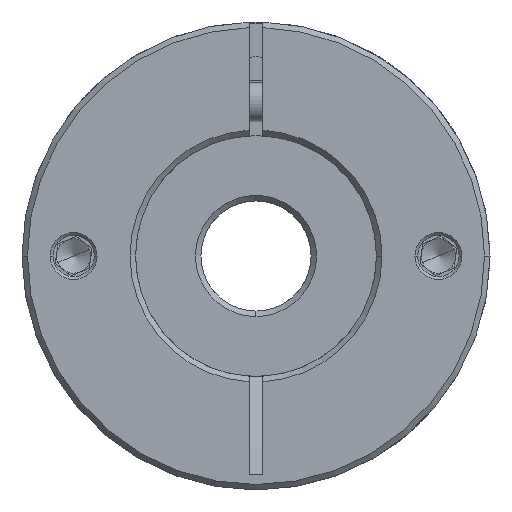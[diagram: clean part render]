
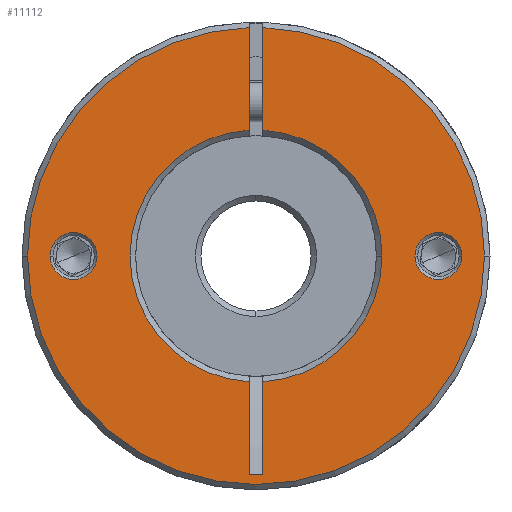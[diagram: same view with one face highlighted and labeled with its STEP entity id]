
A CAD part, front view. The second image highlights one B-rep face of the part: STEP entity #11112.
In plain terms, the highlighted planar face has unit normal (0, -1, 0).
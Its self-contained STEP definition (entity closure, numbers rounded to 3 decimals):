
#56 = CIRCLE ( 'NONE', #3083, 18.3 ) ;
#178 = EDGE_CURVE ( 'NONE', #10034, #9777, #7985, .T. ) ;
#259 = CIRCLE ( 'NONE', #12047, 3.4 ) ;
#278 = CARTESIAN_POINT ( 'NONE',  ( -25.835, -47.045, 68. ) ) ;
#299 = ORIENTED_EDGE ( 'NONE', *, *, #5300, .T. ) ;
#361 = DIRECTION ( 'NONE',  ( 0., 0., -1. ) ) ;
#580 = VERTEX_POINT ( 'NONE', #278 ) ;
#638 = EDGE_CURVE ( 'NONE', #13342, #2035, #6831, .T. ) ;
#647 = VECTOR ( 'NONE', #361, 1000. ) ;
#1026 = DIRECTION ( 'NONE',  ( 0., 1., 0. ) ) ;
#1194 = DIRECTION ( 'NONE',  ( 0., 1., 0. ) ) ;
#1368 = DIRECTION ( 'NONE',  ( 1., 0., 0. ) ) ;
#1606 = CARTESIAN_POINT ( 'NONE',  ( -1.735, -47.045, 86.273 ) ) ;
#1617 = VERTEX_POINT ( 'NONE', #3227 ) ;
#1747 = VECTOR ( 'NONE', #3074, 1000. ) ;
#1832 = CARTESIAN_POINT ( 'NONE',  ( 30.465, -47.045, 68. ) ) ;
#1965 = EDGE_CURVE ( 'NONE', #7394, #3486, #11553, .T. ) ;
#1993 = CARTESIAN_POINT ( 'NONE',  ( -2.735, -47.045, 68. ) ) ;
#2035 = VERTEX_POINT ( 'NONE', #3305 ) ;
#2087 = FACE_BOUND ( 'NONE', #10837, .T. ) ;
#2122 = AXIS2_PLACEMENT_3D ( 'NONE', #5395, #12552, #12683 ) ;
#2307 = VERTEX_POINT ( 'NONE', #3889 ) ;
#2384 = CARTESIAN_POINT ( 'NONE',  ( -3.735, -47.045, 68. ) ) ;
#2489 = AXIS2_PLACEMENT_3D ( 'NONE', #8278, #1026, #6085 ) ;
#2513 = DIRECTION ( 'NONE',  ( 0., 1., 0. ) ) ;
#2552 = CIRCLE ( 'NONE', #2489, 3.4 ) ;
#2935 = CARTESIAN_POINT ( 'NONE',  ( -3.735, -47.045, 49.727 ) ) ;
#3011 = ORIENTED_EDGE ( 'NONE', *, *, #3584, .T. ) ;
#3020 = CARTESIAN_POINT ( 'NONE',  ( -3.735, -47.045, 68. ) ) ;
#3074 = DIRECTION ( 'NONE',  ( 0., 0., -1. ) ) ;
#3083 = AXIS2_PLACEMENT_3D ( 'NONE', #3262, #6721, #11111 ) ;
#3227 = CARTESIAN_POINT ( 'NONE',  ( -3.735, -47.045, 101.185 ) ) ;
#3235 = EDGE_CURVE ( 'NONE', #580, #5173, #4159, .T. ) ;
#3262 = CARTESIAN_POINT ( 'NONE',  ( -2.735, -47.045, 68. ) ) ;
#3305 = CARTESIAN_POINT ( 'NONE',  ( -3.735, -47.045, 36.279 ) ) ;
#3486 = VERTEX_POINT ( 'NONE', #1606 ) ;
#3558 = CARTESIAN_POINT ( 'NONE',  ( -32.635, -47.045, 68. ) ) ;
#3580 = DIRECTION ( 'NONE',  ( 0., 0., -1. ) ) ;
#3584 = EDGE_CURVE ( 'NONE', #5173, #580, #259, .T. ) ;
#3728 = CARTESIAN_POINT ( 'NONE',  ( 15.565, -47.045, 68. ) ) ;
#3889 = CARTESIAN_POINT ( 'NONE',  ( -3.735, -47.045, 86.273 ) ) ;
#4000 = EDGE_LOOP ( 'NONE', ( #4307, #4030, #9543, #12312, #8546, #7762, #299, #8768, #6674, #13279, #8054 ) ) ;
#4024 = AXIS2_PLACEMENT_3D ( 'NONE', #1993, #10344, #4090 ) ;
#4030 = ORIENTED_EDGE ( 'NONE', *, *, #12422, .T. ) ;
#4090 = DIRECTION ( 'NONE',  ( 1., 0., 0. ) ) ;
#4153 = CARTESIAN_POINT ( 'NONE',  ( -35.935, -47.045, 68. ) ) ;
#4159 = CIRCLE ( 'NONE', #12216, 3.4 ) ;
#4307 = ORIENTED_EDGE ( 'NONE', *, *, #5374, .F. ) ;
#4717 = AXIS2_PLACEMENT_3D ( 'NONE', #5662, #6738, #7002 ) ;
#4896 = LINE ( 'NONE', #7590, #8964 ) ;
#5133 = CARTESIAN_POINT ( 'NONE',  ( -1.735, -47.045, 68. ) ) ;
#5160 = DIRECTION ( 'NONE',  ( 1., 0., 0. ) ) ;
#5171 = DIRECTION ( 'NONE',  ( 0., 0., -1. ) ) ;
#5173 = VERTEX_POINT ( 'NONE', #3558 ) ;
#5286 = ORIENTED_EDGE ( 'NONE', *, *, #8362, .T. ) ;
#5300 = EDGE_CURVE ( 'NONE', #8226, #7893, #56, .T. ) ;
#5374 = EDGE_CURVE ( 'NONE', #1617, #2307, #10319, .T. ) ;
#5383 = CARTESIAN_POINT ( 'NONE',  ( -29.235, -47.045, 68. ) ) ;
#5395 = CARTESIAN_POINT ( 'NONE',  ( -2.735, -47.045, 68. ) ) ;
#5662 = CARTESIAN_POINT ( 'NONE',  ( -2.735, -47.045, 68. ) ) ;
#5776 = EDGE_CURVE ( 'NONE', #13342, #2307, #5891, .T. ) ;
#5891 = CIRCLE ( 'NONE', #6059, 18.3 ) ;
#6059 = AXIS2_PLACEMENT_3D ( 'NONE', #9759, #2513, #1368 ) ;
#6066 = DIRECTION ( 'NONE',  ( 0., -1., 0. ) ) ;
#6085 = DIRECTION ( 'NONE',  ( 1., 0., 0. ) ) ;
#6132 = CIRCLE ( 'NONE', #2122, 33.2 ) ;
#6155 = CIRCLE ( 'NONE', #9251, 3.4 ) ;
#6365 = VECTOR ( 'NONE', #12371, 1000. ) ;
#6423 = VERTEX_POINT ( 'NONE', #10816 ) ;
#6424 = EDGE_CURVE ( 'NONE', #7893, #6423, #4896, .T. ) ;
#6674 = ORIENTED_EDGE ( 'NONE', *, *, #10015, .T. ) ;
#6721 = DIRECTION ( 'NONE',  ( 0., 1., 0. ) ) ;
#6738 = DIRECTION ( 'NONE',  ( 0., -1., 0. ) ) ;
#6824 = VERTEX_POINT ( 'NONE', #10520 ) ;
#6831 = LINE ( 'NONE', #2384, #647 ) ;
#6957 = CARTESIAN_POINT ( 'NONE',  ( -1.735, -47.045, 101.185 ) ) ;
#7002 = DIRECTION ( 'NONE',  ( 1., 0., 0. ) ) ;
#7095 = DIRECTION ( 'NONE',  ( 0., 1., 0. ) ) ;
#7373 = DIRECTION ( 'NONE',  ( 1., 0., 0. ) ) ;
#7394 = VERTEX_POINT ( 'NONE', #6957 ) ;
#7590 = CARTESIAN_POINT ( 'NONE',  ( -1.735, -47.045, 68. ) ) ;
#7715 = VERTEX_POINT ( 'NONE', #7855 ) ;
#7762 = ORIENTED_EDGE ( 'NONE', *, *, #11268, .T. ) ;
#7794 = DIRECTION ( 'NONE',  ( 0., -1., 0. ) ) ;
#7855 = CARTESIAN_POINT ( 'NONE',  ( 27.165, -47.045, 68. ) ) ;
#7893 = VERTEX_POINT ( 'NONE', #9278 ) ;
#7985 = CIRCLE ( 'NONE', #9185, 33.2 ) ;
#8054 = ORIENTED_EDGE ( 'NONE', *, *, #5776, .T. ) ;
#8156 = DIRECTION ( 'NONE',  ( 1., 0., 0. ) ) ;
#8217 = CARTESIAN_POINT ( 'NONE',  ( -2.735, -47.045, 68. ) ) ;
#8226 = VERTEX_POINT ( 'NONE', #3728 ) ;
#8278 = CARTESIAN_POINT ( 'NONE',  ( 23.765, -47.045, 68. ) ) ;
#8291 = CIRCLE ( 'NONE', #4024, 18.3 ) ;
#8362 = EDGE_CURVE ( 'NONE', #6824, #7715, #2552, .T. ) ;
#8546 = ORIENTED_EDGE ( 'NONE', *, *, #1965, .T. ) ;
#8659 = ORIENTED_EDGE ( 'NONE', *, *, #12401, .T. ) ;
#8763 = CIRCLE ( 'NONE', #11378, 33.2 ) ;
#8768 = ORIENTED_EDGE ( 'NONE', *, *, #6424, .T. ) ;
#8825 = ORIENTED_EDGE ( 'NONE', *, *, #3235, .T. ) ;
#8964 = VECTOR ( 'NONE', #3580, 1000. ) ;
#9117 = LINE ( 'NONE', #10365, #6365 ) ;
#9185 = AXIS2_PLACEMENT_3D ( 'NONE', #8217, #6066, #5160 ) ;
#9247 = FACE_OUTER_BOUND ( 'NONE', #4000, .T. ) ;
#9251 = AXIS2_PLACEMENT_3D ( 'NONE', #11914, #1194, #9941 ) ;
#9278 = CARTESIAN_POINT ( 'NONE',  ( -1.735, -47.045, 49.727 ) ) ;
#9543 = ORIENTED_EDGE ( 'NONE', *, *, #178, .T. ) ;
#9637 = VECTOR ( 'NONE', #5171, 1000. ) ;
#9759 = CARTESIAN_POINT ( 'NONE',  ( -2.735, -47.045, 68. ) ) ;
#9777 = VERTEX_POINT ( 'NONE', #1832 ) ;
#9803 = EDGE_LOOP ( 'NONE', ( #8825, #3011 ) ) ;
#9877 = DIRECTION ( 'NONE',  ( 1., 0., 0. ) ) ;
#9924 = CARTESIAN_POINT ( 'NONE',  ( -2.735, -47.045, 68. ) ) ;
#9941 = DIRECTION ( 'NONE',  ( 1., 0., 0. ) ) ;
#10015 = EDGE_CURVE ( 'NONE', #6423, #2035, #9117, .T. ) ;
#10034 = VERTEX_POINT ( 'NONE', #4153 ) ;
#10319 = LINE ( 'NONE', #3020, #9637 ) ;
#10344 = DIRECTION ( 'NONE',  ( 0., 1., 0. ) ) ;
#10365 = CARTESIAN_POINT ( 'NONE',  ( -3.735, -47.045, 36.279 ) ) ;
#10520 = CARTESIAN_POINT ( 'NONE',  ( 20.365, -47.045, 68. ) ) ;
#10591 = DIRECTION ( 'NONE',  ( 0., 1., 0. ) ) ;
#10816 = CARTESIAN_POINT ( 'NONE',  ( -1.735, -47.045, 36.279 ) ) ;
#10837 = EDGE_LOOP ( 'NONE', ( #8659, #5286 ) ) ;
#11111 = DIRECTION ( 'NONE',  ( 1., 0., 0. ) ) ;
#11112 = ADVANCED_FACE ( 'NONE', ( #2087, #11884, #9247 ), #13250, .T. ) ;
#11268 = EDGE_CURVE ( 'NONE', #3486, #8226, #8291, .T. ) ;
#11378 = AXIS2_PLACEMENT_3D ( 'NONE', #9924, #7794, #9877 ) ;
#11553 = LINE ( 'NONE', #5133, #1747 ) ;
#11884 = FACE_BOUND ( 'NONE', #9803, .T. ) ;
#11914 = CARTESIAN_POINT ( 'NONE',  ( 23.765, -47.045, 68. ) ) ;
#12047 = AXIS2_PLACEMENT_3D ( 'NONE', #12300, #7095, #8156 ) ;
#12216 = AXIS2_PLACEMENT_3D ( 'NONE', #5383, #10591, #7373 ) ;
#12300 = CARTESIAN_POINT ( 'NONE',  ( -29.235, -47.045, 68. ) ) ;
#12312 = ORIENTED_EDGE ( 'NONE', *, *, #13474, .T. ) ;
#12371 = DIRECTION ( 'NONE',  ( -1., 0., 0. ) ) ;
#12401 = EDGE_CURVE ( 'NONE', #7715, #6824, #6155, .T. ) ;
#12422 = EDGE_CURVE ( 'NONE', #1617, #10034, #8763, .T. ) ;
#12552 = DIRECTION ( 'NONE',  ( 0., -1., 0. ) ) ;
#12683 = DIRECTION ( 'NONE',  ( 1., 0., 0. ) ) ;
#13250 = PLANE ( 'NONE',  #4717 ) ;
#13279 = ORIENTED_EDGE ( 'NONE', *, *, #638, .F. ) ;
#13342 = VERTEX_POINT ( 'NONE', #2935 ) ;
#13474 = EDGE_CURVE ( 'NONE', #9777, #7394, #6132, .T. ) ;
